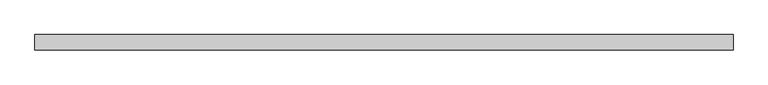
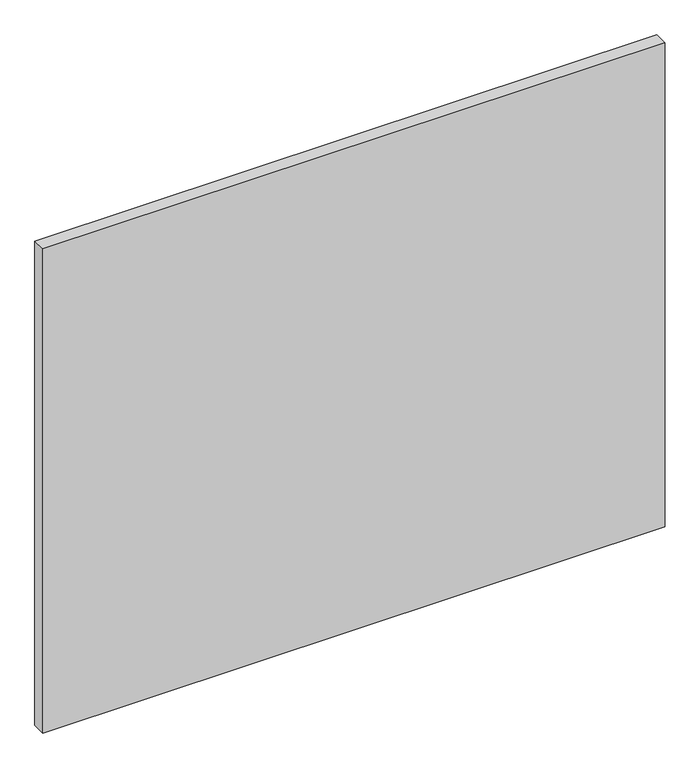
"""IFC4 building model written with IfcOpenShell, lengths in millimetres: plate geometry, Системная панель : ADSK_Cтеклопакет_25."""

from ifc_helpers import new_model, si_unit, origin, origin_with_axes, place, context, project, spatial, polyline, outline, extrude, source, transform, mapped, element, save


def plate_e95abe67(model_context):
    return source(origin(), model_context, "Body", "SweptSolid", [
        extrude(outline(polyline([(562.5, -12.5), (-562.5, -12.5), (-562.5, 12.5), (562.5, 12.5), (562.5, -12.5)])), origin_with_axes(), (0.0, 0.0, 1.0), 925.0),
    ])


if __name__ == "__main__":
    model = new_model("IFC4")
    model_context = context("Model", 3, world=origin())
    ifc_project = project(units=[si_unit("LENGTHUNIT", "METRE", prefix="MILLI")], contexts=[model_context])
    site = spatial("IfcSite", under=ifc_project)
    building = spatial("IfcBuilding", under=site)
    placement = place(None, origin())
    plate_shape = plate_e95abe67(model_context)
    element("IfcPlate", 1, ObjectType="Системная панель : ADSK_Cтеклопакет_25", at=placement, inside=building, context=model_context, shape_type="MappedRepresentation", body=[
        mapped(plate_shape, transform((0.0, 0.0, 0.0), x_axis=(1.0, 0.0, 0.0), y_axis=(0.0, 1.0, 0.0), z_axis=(0.0, 0.0, 1.0))),
    ])
    save(model, "model.ifc")
